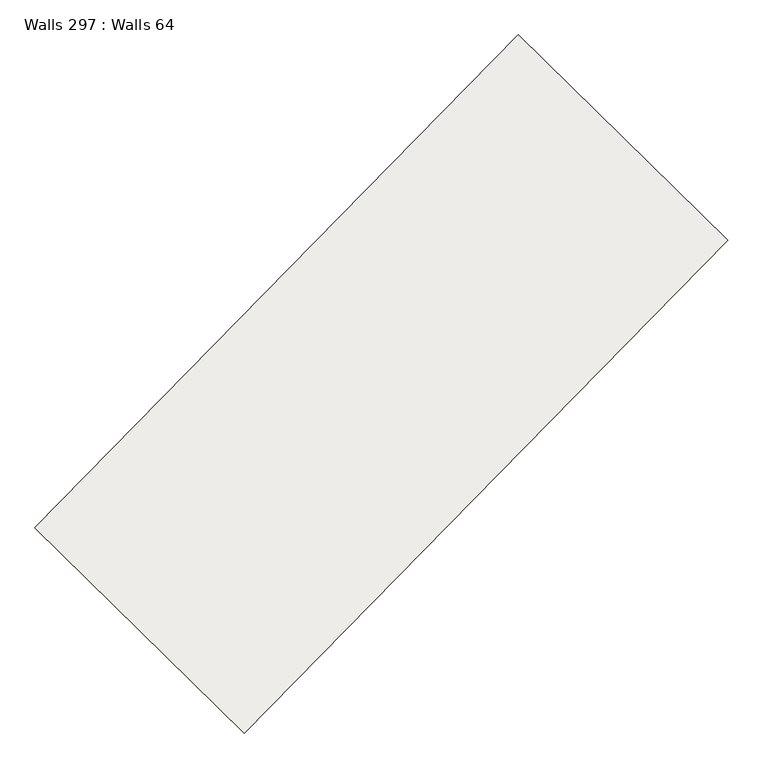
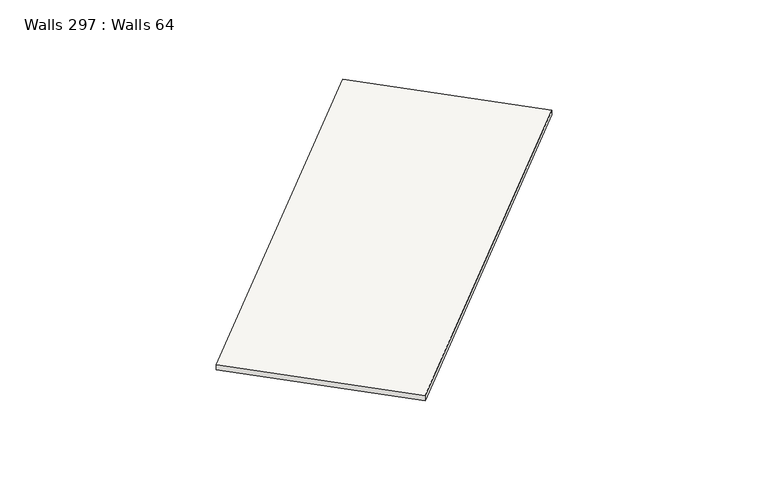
"""IFC4 building model written with IfcOpenShell, lengths in millimetres: slab geometry, Walls 297 : Walls 64."""

from ifc_helpers import new_model, si_unit, frame, origin, place, context, project, spatial, polyline, outline, extrude, source, transform, mapped, element, save


def walls_297_walls_64_6779e433(model_context):
    return source(origin(), model_context, "Body", "SweptSolid", [
        extrude(outline(polyline([(-50.0, 0.0), (50.0, 0.0), (-30.0, -8700.0000009), (-130.0, -8700.0000009), (-50.0, 0.0)])), frame((6143.4143962, -153084.644601, 638130.0), z_axis=(-0.7137361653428, 0.7004146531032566, 0.0), x_axis=(0.0, 0.0, 1.0)), (0.0, 0.0, 1.0), 3699.999995),
    ])


if __name__ == "__main__":
    model = new_model("IFC4")
    model_context = context("Model", 3, world=origin())
    ifc_project = project(units=[si_unit("LENGTHUNIT", "METRE", prefix="MILLI")], contexts=[model_context])
    site = spatial("IfcSite", under=ifc_project)
    building = spatial("IfcBuilding", under=site)
    placement = place(None, origin())
    walls_297_walls_64_shape = walls_297_walls_64_6779e433(model_context)
    element("IfcSlab", 1, ObjectType="Walls 297 : Walls 64", at=placement, inside=building, context=model_context, shape_type="MappedRepresentation", body=[
        mapped(walls_297_walls_64_shape, transform((0.0, 0.0, 0.0), x_axis=(1.0, 0.0, 0.0), y_axis=(0.0, 1.0, 0.0), z_axis=(0.0, 0.0, 1.0))),
    ])
    save(model, "model.ifc")
